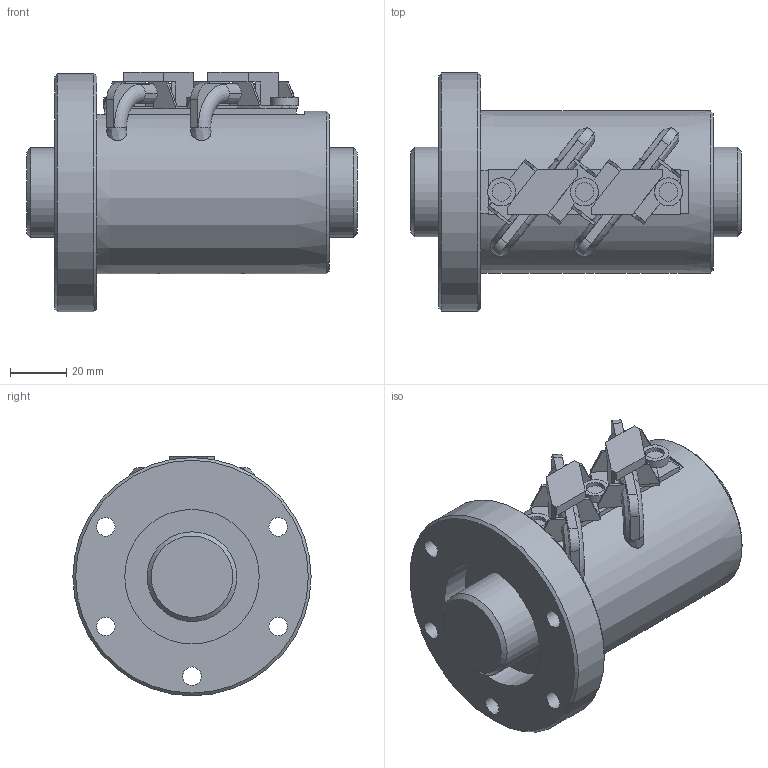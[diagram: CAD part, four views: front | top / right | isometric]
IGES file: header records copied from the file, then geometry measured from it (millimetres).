
Start section: Data from Parasolid IGES Translator 26.0.171, Copyright(c) 2006 Siemens PLM Software. All Rights Reserved.
Global section: file name: HBN3210-5RRG2+118LC0(0G200)_rev.igs; native system: By Siemens PLM Incorporated; preprocessor: XPlus GENERIC/IGES 26.0.171; author: Noname; organization: Noname; date: 20240704.081713; units: millimetre
Bounding box: 118 x 85 x 85.5 mm (x, y, z)
Surface area: 62003 mm2 (no closed solid volume)
Topology: 0 solids, 0 shells, 185 faces, 1078 edges, 1046 vertices
Faces by surface type: extrusion 138, revolution 47
